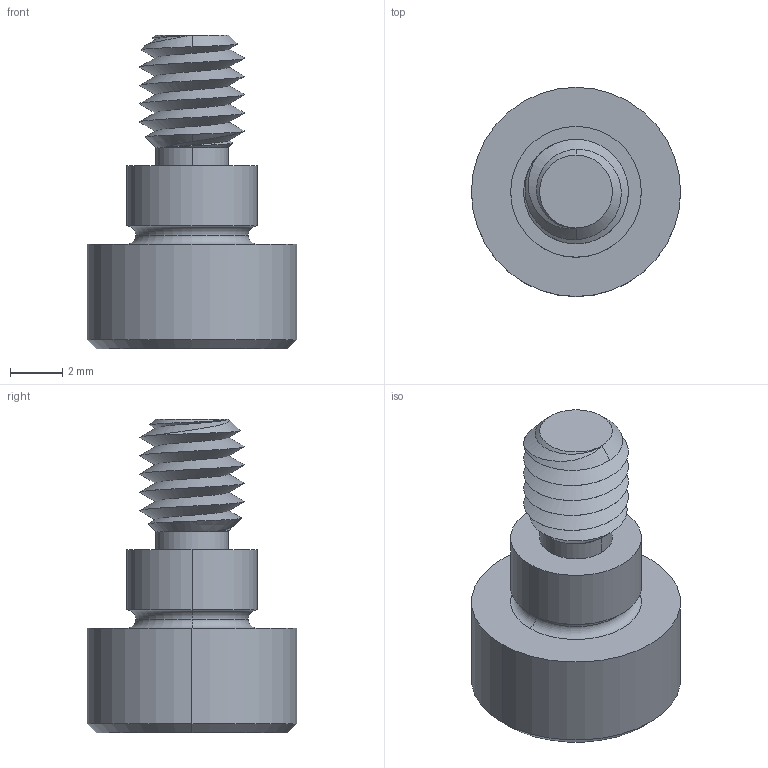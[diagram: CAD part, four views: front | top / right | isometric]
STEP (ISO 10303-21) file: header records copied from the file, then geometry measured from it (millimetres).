
FILE_DESCRIPTION (( 'STEP AP203' ), '1' );
FILE_NAME ('P0130.050-003-B2.step', '2021-11-09T21:10:09', ( '' ), ( '' ), 'SwSTEP 2.0', 'SolidWorks 2019', '' );
FILE_SCHEMA (( 'CONFIG_CONTROL_DESIGN' ));
Length unit declared in the file: millimetre
Products named in the file (1): P0130.050-003-B2
Bounding box: 8 x 8 x 12 mm (x, y, z)
Volume: 283.2 mm3; surface area: 362.6 mm2
Topology: 1 solids, 1 shells, 53 faces, 121 edges, 71 vertices
Faces by surface type: cylinder 16, plane 16, cone 15, torus 4, bspline 2
Entity records: 2151 total; most frequent: CARTESIAN_POINT 968, ORIENTED_EDGE 238, DIRECTION 226, EDGE_CURVE 119, AXIS2_PLACEMENT_3D 92, VERTEX_POINT 71, EDGE_LOOP 56, ADVANCED_FACE 53
